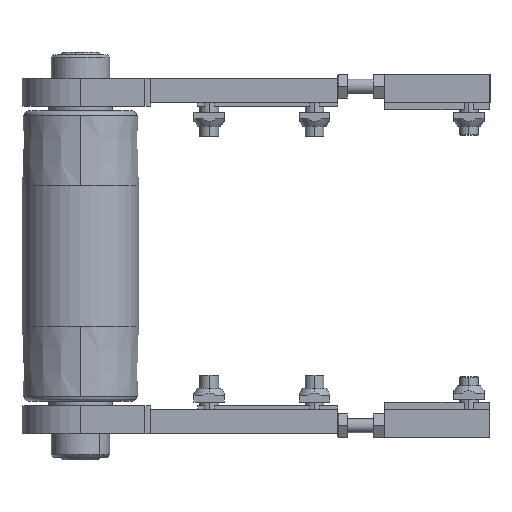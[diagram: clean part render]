
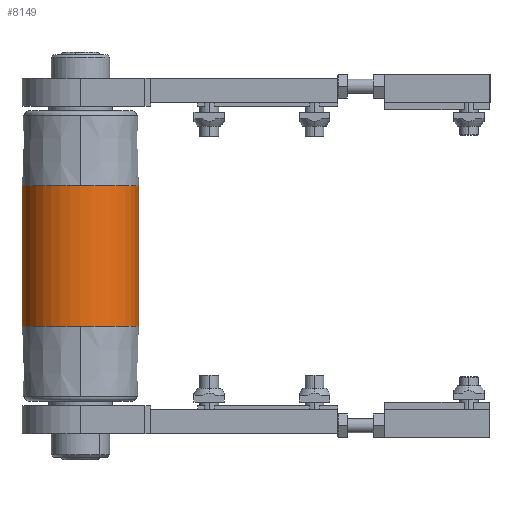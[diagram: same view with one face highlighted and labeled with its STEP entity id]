
A CAD part, front view. The second image highlights one B-rep face of the part: STEP entity #8149.
In plain terms, the highlighted cylindrical face has radius 25 mm (diameter 50 mm), a partial arc.
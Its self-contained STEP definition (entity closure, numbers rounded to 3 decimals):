
#189 = CARTESIAN_POINT ( 'NONE',  ( -30., 0., -25. ) ) ;
#851 = EDGE_LOOP ( 'NONE', ( #5875, #1132, #5286, #12097, #1175, #8723 ) ) ;
#1132 = ORIENTED_EDGE ( 'NONE', *, *, #7981, .T. ) ;
#1175 = ORIENTED_EDGE ( 'NONE', *, *, #7579, .F. ) ;
#1274 = CARTESIAN_POINT ( 'NONE',  ( 30., 0., -25. ) ) ;
#1541 = DIRECTION ( 'NONE',  ( -1., 0., 0. ) ) ;
#1552 = EDGE_CURVE ( 'NONE', #2522, #11255, #11932, .T. ) ;
#1684 = DIRECTION ( 'NONE',  ( -1., 0., 0. ) ) ;
#1731 = VECTOR ( 'NONE', #1684, 1000. ) ;
#1882 = CARTESIAN_POINT ( 'NONE',  ( 60., 0., 25. ) ) ;
#2522 = VERTEX_POINT ( 'NONE', #1274 ) ;
#2629 = CARTESIAN_POINT ( 'NONE',  ( 60., 0., 0. ) ) ;
#2750 = EDGE_CURVE ( 'NONE', #3552, #8967, #6524, .T. ) ;
#2778 = CARTESIAN_POINT ( 'NONE',  ( 30., 0., 0. ) ) ;
#2932 = CIRCLE ( 'NONE', #11373, 25. ) ;
#3516 = CIRCLE ( 'NONE', #11778, 25. ) ;
#3552 = VERTEX_POINT ( 'NONE', #11934 ) ;
#3848 = VECTOR ( 'NONE', #8595, 1000. ) ;
#4278 = DIRECTION ( 'NONE',  ( -1., 0., 0. ) ) ;
#4409 = VERTEX_POINT ( 'NONE', #8089 ) ;
#4753 = LINE ( 'NONE', #1882, #3848 ) ;
#5286 = ORIENTED_EDGE ( 'NONE', *, *, #1552, .T. ) ;
#5875 = ORIENTED_EDGE ( 'NONE', *, *, #2750, .T. ) ;
#6196 = AXIS2_PLACEMENT_3D ( 'NONE', #2629, #1541, #6471 ) ;
#6471 = DIRECTION ( 'NONE',  ( 0., 0., 1. ) ) ;
#6524 = CIRCLE ( 'NONE', #12112, 25. ) ;
#6537 = CYLINDRICAL_SURFACE ( 'NONE', #6196, 25. ) ;
#7152 = CARTESIAN_POINT ( 'NONE',  ( 30., 25., 0. ) ) ;
#7166 = DIRECTION ( 'NONE',  ( 0., -1., 0. ) ) ;
#7333 = EDGE_CURVE ( 'NONE', #3552, #8138, #4753, .T. ) ;
#7579 = EDGE_CURVE ( 'NONE', #8138, #4409, #10141, .T. ) ;
#7750 = CARTESIAN_POINT ( 'NONE',  ( -30., 0., 0. ) ) ;
#7981 = EDGE_CURVE ( 'NONE', #8967, #2522, #2932, .T. ) ;
#8089 = CARTESIAN_POINT ( 'NONE',  ( -30., 25., 0. ) ) ;
#8125 = CARTESIAN_POINT ( 'NONE',  ( 30., 0., 0. ) ) ;
#8138 = VERTEX_POINT ( 'NONE', #12074 ) ;
#8149 = ADVANCED_FACE ( 'NONE', ( #10410 ), #6537, .T. ) ;
#8450 = CARTESIAN_POINT ( 'NONE',  ( 60., 0., -25. ) ) ;
#8595 = DIRECTION ( 'NONE',  ( -1., 0., 0. ) ) ;
#8614 = DIRECTION ( 'NONE',  ( -1., 0., 0. ) ) ;
#8717 = DIRECTION ( 'NONE',  ( -1., 0., 0. ) ) ;
#8723 = ORIENTED_EDGE ( 'NONE', *, *, #7333, .F. ) ;
#8967 = VERTEX_POINT ( 'NONE', #7152 ) ;
#9070 = AXIS2_PLACEMENT_3D ( 'NONE', #11982, #9123, #7166 ) ;
#9123 = DIRECTION ( 'NONE',  ( -1., 0., 0. ) ) ;
#9478 = DIRECTION ( 'NONE',  ( 0., -1., 0. ) ) ;
#10141 = CIRCLE ( 'NONE', #9070, 25. ) ;
#10225 = EDGE_CURVE ( 'NONE', #4409, #11255, #3516, .T. ) ;
#10410 = FACE_OUTER_BOUND ( 'NONE', #851, .T. ) ;
#10626 = DIRECTION ( 'NONE',  ( 0., -1., 0. ) ) ;
#11255 = VERTEX_POINT ( 'NONE', #189 ) ;
#11373 = AXIS2_PLACEMENT_3D ( 'NONE', #8125, #4278, #11942 ) ;
#11778 = AXIS2_PLACEMENT_3D ( 'NONE', #7750, #8717, #10626 ) ;
#11932 = LINE ( 'NONE', #8450, #1731 ) ;
#11934 = CARTESIAN_POINT ( 'NONE',  ( 30., 0., 25. ) ) ;
#11942 = DIRECTION ( 'NONE',  ( 0., -1., 0. ) ) ;
#11982 = CARTESIAN_POINT ( 'NONE',  ( -30., 0., 0. ) ) ;
#12074 = CARTESIAN_POINT ( 'NONE',  ( -30., 0., 25. ) ) ;
#12097 = ORIENTED_EDGE ( 'NONE', *, *, #10225, .F. ) ;
#12112 = AXIS2_PLACEMENT_3D ( 'NONE', #2778, #8614, #9478 ) ;
